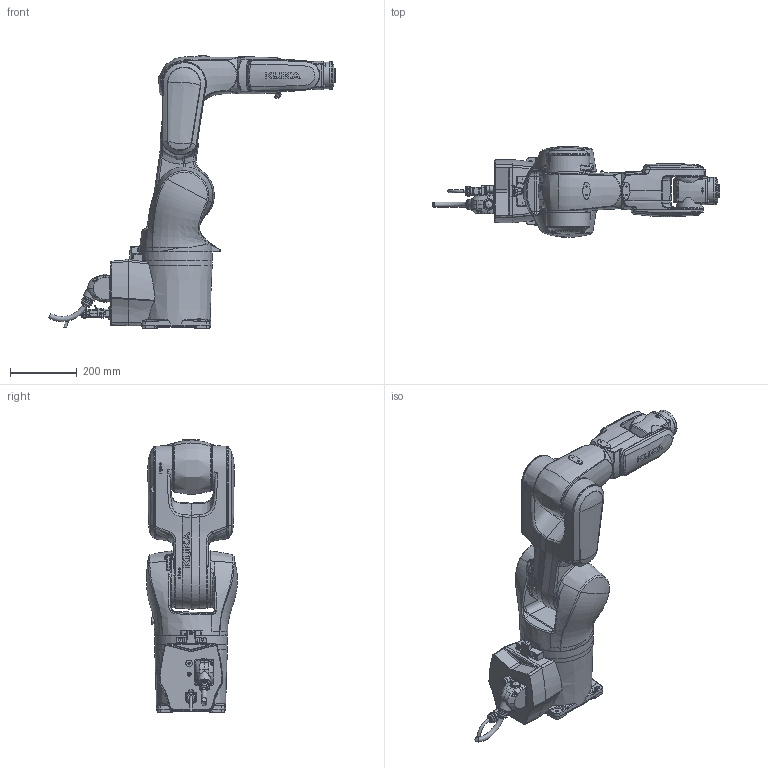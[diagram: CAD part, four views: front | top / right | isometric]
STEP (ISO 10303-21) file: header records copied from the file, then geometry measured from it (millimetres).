
FILE_DESCRIPTION(/* description */ (''),/* implementation_level */ '2;1');
FILE_NAME(/* name */ 'KR6_R700-2.stp',/* time_stamp */ '2019-02-22T12:12:57+01:00',/* author */ (''),/* organization */ (''),/* preprocessor_version */ 'ST-DEVELOPER v15',/* originating_system */ 'SIEMENS PLM Software NX 9.0',/* authorisation */ '');
FILE_SCHEMA (('AUTOMOTIVE_DESIGN { 1 0 10303 214 3 1 1 1 }'));
Products named in the file (1): Grep19903787bkpx
Bounding box: 862.92 x 273.23 x 819.5 mm (x, y, z)
Volume: 32689075.9 mm3; surface area: 1417717.5 mm2
Topology: 16 solids, 23 shells, 2081 faces, 5311 edges, 3412 vertices
Faces by surface type: bspline 786, plane 740, cylinder 348, cone 96, sphere 52, torus 41, extrusion 16, revolution 2
Full cylindrical faces by diameter (mm): 2 x1, 2.5 x1, 3.2 x2, 3.3 x1, 4 x11, 4.3 x3, 4.8 x5, 5 x13, 5.28 x2, 5.5 x2, 6 x9, 7 x9, 8 x7, 8.5 x4, 8.6 x1, 8.7 x2, 9 x4, 10 x6, 10.3 x4, 12 x1, 15.2 x2, 17 x2, 19.2 x1, 20 x1, 23 x1, 26.6 x2, 27.8 x2, 28 x1, 30 x2, 36 x1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
Entity records: 128718 total; most frequent: CARTESIAN_POINT 86197, ORIENTED_EDGE 9972, DIRECTION 6226, EDGE_CURVE 4986, VERTEX_POINT 3270, B_SPLINE_CURVE_WITH_KNOTS 2488, AXIS2_PLACEMENT_3D 2462, EDGE_LOOP 2420
